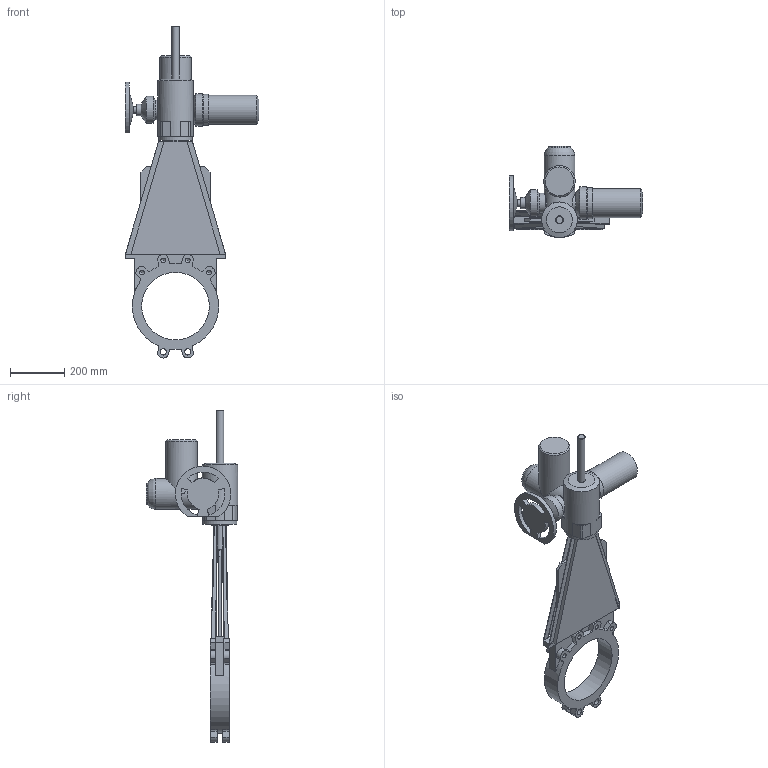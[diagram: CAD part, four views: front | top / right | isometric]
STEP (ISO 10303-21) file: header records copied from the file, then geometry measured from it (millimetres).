
FILE_DESCRIPTION(('STEP AP203'), '1');
FILE_NAME('K51GVA_DN250+MT903.A 10', '', ('UNSPECIFIED'), ('UNSPECIFIED'), 'ASCON STEP Converter 1.6', 'ASCON Math Kernel', '');
FILE_SCHEMA(('CONFIG_CONTROL_DESIGN'));
Length unit declared in the file: millimetre
Bounding box: 494 x 338 x 1226.55 mm (x, y, z)
Volume: 14560606.8 mm3; surface area: 1382128.6 mm2
Topology: 1 solids, 1 shells, 274 faces, 742 edges, 477 vertices
Faces by surface type: plane 154, cylinder 101, cone 18, torus 1
Full cylindrical faces by diameter (mm): 8.5 x4, 12 x4, 17.294 x8, 23 x4, 24 x1, 28 x2, 42 x1, 60 x1, 66 x1, 72 x1, 80 x1, 100 x1, 108 x1, 114 x1, 115 x1, 116 x1, 119 x1, 125 x1, 132 x1, 250 x1
Entity records: 11691 total; most frequent: CARTESIAN_POINT 2627, DIRECTION 1453, ORIENTED_EDGE 1354, EDGE_CURVE 677, AXIS2_PLACEMENT_3D 524, VERTEX_POINT 469, LINE 405, VECTOR 405
